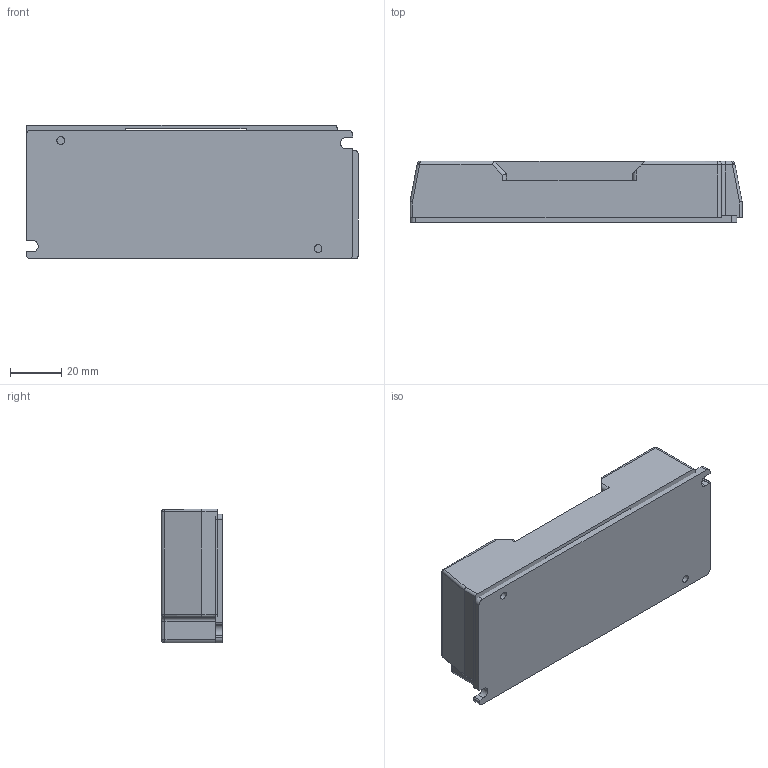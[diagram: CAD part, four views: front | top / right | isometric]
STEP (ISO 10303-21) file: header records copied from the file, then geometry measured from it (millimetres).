
FILE_DESCRIPTION(/* description */ (''),/* implementation_level */ '2;1');
FILE_NAME(/* name */ 'C:\Users\EGC-NIKE\Desktop\CB-016P7.stp',/* time_stamp */ '2014-12-15T10:47:27+09:00',/* author */ ('EGC-NIKE'),/* organization */ (''),/* preprocessor_version */ 'ST-DEVELOPER v15.2',/* originating_system */ 'Autodesk Inventor 2014',/* authorisation */ '');
FILE_SCHEMA (('AUTOMOTIVE_DESIGN { 1 0 10303 214 3 1 1 }'));
Length unit declared in the file: millimetre
Products named in the file (3): CB-016P7ケース; CB-016基板; CB-016P7
Bounding box: 129 x 24 x 52 mm (x, y, z)
Volume: 143187.9 mm3; surface area: 34727.6 mm2
Topology: 2 solids, 2 shells, 81 faces, 209 edges, 126 vertices
Faces by surface type: cylinder 35, plane 34, bspline 8, torus 2, sphere 2
Full cylindrical faces by diameter (mm): 3 x2
Entity records: 2633 total; most frequent: CARTESIAN_POINT 590, DIRECTION 435, ORIENTED_EDGE 402, EDGE_CURVE 201, AXIS2_PLACEMENT_3D 156, VERTEX_POINT 126, LINE 123, VECTOR 123
